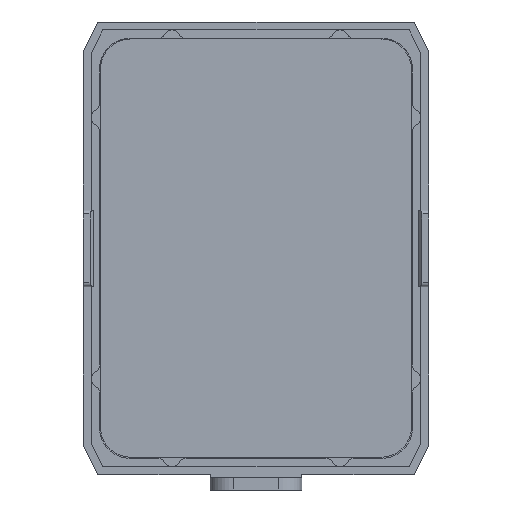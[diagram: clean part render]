
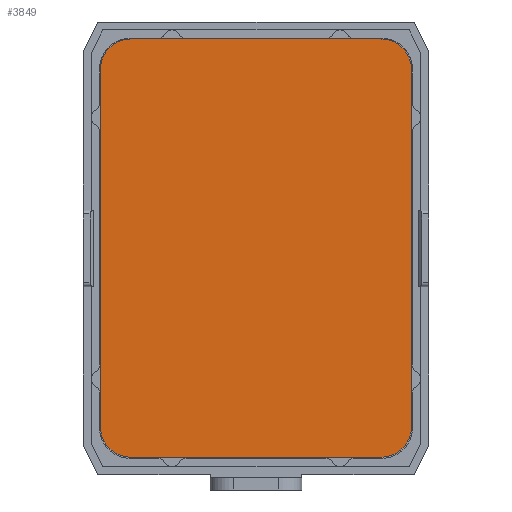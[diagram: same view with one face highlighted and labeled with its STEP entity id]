
A CAD part, front view. The second image highlights one B-rep face of the part: STEP entity #3849.
In plain terms, the highlighted planar face has unit normal (0, -1, 0).
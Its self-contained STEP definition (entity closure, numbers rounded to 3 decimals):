
#1413=CARTESIAN_POINT('',(-297.002,204.815,
-174.907));
#1414=DIRECTION('',(0.,1.,0.));
#1415=DIRECTION('',(-1.,0.,0.));
#1416=AXIS2_PLACEMENT_3D('',#1413,#1414,#1415);
#1418=DIRECTION('',(1.,0.,0.));
#1419=VECTOR('',#1418,32.7);
#1420=CARTESIAN_POINT('',(-297.002,204.815,
-170.907));
#1421=LINE('',#1420,#1419);
#1422=CARTESIAN_POINT('',(-264.302,204.815,
-174.907));
#1423=DIRECTION('',(0.,1.,0.));
#1424=DIRECTION('',(0.,0.,1.));
#1425=AXIS2_PLACEMENT_3D('',#1422,#1423,#1424);
#1427=DIRECTION('',(0.,0.,-1.));
#1428=VECTOR('',#1427,46.7);
#1429=CARTESIAN_POINT('',(-260.302,204.815,
-174.907));
#1430=LINE('',#1429,#1428);
#1431=CARTESIAN_POINT('',(-264.302,204.815,
-221.607));
#1432=DIRECTION('',(0.,1.,0.));
#1433=DIRECTION('',(1.,0.,0.));
#1434=AXIS2_PLACEMENT_3D('',#1431,#1432,#1433);
#1436=DIRECTION('',(-1.,0.,0.));
#1437=VECTOR('',#1436,32.7);
#1438=CARTESIAN_POINT('',(-264.302,204.815,
-225.607));
#1439=LINE('',#1438,#1437);
#1440=CARTESIAN_POINT('',(-297.002,204.815,
-221.607));
#1441=DIRECTION('',(0.,1.,0.));
#1442=DIRECTION('',(0.,0.,-1.));
#1443=AXIS2_PLACEMENT_3D('',#1440,#1441,#1442);
#1445=DIRECTION('',(0.,0.,1.));
#1446=VECTOR('',#1445,46.7);
#1447=CARTESIAN_POINT('',(-301.002,204.815,
-221.607));
#1448=LINE('',#1447,#1446);
#1828=CARTESIAN_POINT('',(-301.002,204.815,
-174.907));
#1829=CARTESIAN_POINT('',(-297.002,204.815,
-170.907));
#1830=VERTEX_POINT('',#1828);
#1831=VERTEX_POINT('',#1829);
#1832=CARTESIAN_POINT('',(-264.302,204.815,
-170.907));
#1833=VERTEX_POINT('',#1832);
#1834=CARTESIAN_POINT('',(-260.302,204.815,
-174.907));
#1835=VERTEX_POINT('',#1834);
#1836=CARTESIAN_POINT('',(-260.302,204.815,
-221.607));
#1837=VERTEX_POINT('',#1836);
#1838=CARTESIAN_POINT('',(-264.302,204.815,
-225.607));
#1839=VERTEX_POINT('',#1838);
#1840=CARTESIAN_POINT('',(-297.002,204.815,
-225.607));
#1841=VERTEX_POINT('',#1840);
#1842=CARTESIAN_POINT('',(-301.002,204.815,
-221.607));
#1843=VERTEX_POINT('',#1842);
#3834=CARTESIAN_POINT('',(-280.652,204.815,
-198.257));
#3835=DIRECTION('',(0.,-1.,0.));
#3836=DIRECTION('',(0.,0.,-1.));
#3837=AXIS2_PLACEMENT_3D('',#3834,#3835,#3836);
#3838=PLANE('',#3837);
#3839=ORIENTED_EDGE('',*,*,#3730,.T.);
#3840=ORIENTED_EDGE('',*,*,#3745,.T.);
#3841=ORIENTED_EDGE('',*,*,#3759,.T.);
#3842=ORIENTED_EDGE('',*,*,#3773,.T.);
#3843=ORIENTED_EDGE('',*,*,#3787,.T.);
#3844=ORIENTED_EDGE('',*,*,#3801,.T.);
#3845=ORIENTED_EDGE('',*,*,#3815,.T.);
#3846=ORIENTED_EDGE('',*,*,#3828,.T.);
#3847=EDGE_LOOP('',(#3839,#3840,#3841,#3842,#3843,#3844,#3845,#3846));
#3848=FACE_OUTER_BOUND('',#3847,.F.);
#3849=ADVANCED_FACE('',(#3848),#3838,.T.);
#1417=CIRCLE('',#1416,4.);
#1426=CIRCLE('',#1425,4.);
#1435=CIRCLE('',#1434,4.);
#1444=CIRCLE('',#1443,4.);
#3730=EDGE_CURVE('',#1830,#1831,#1417,.T.);
#3745=EDGE_CURVE('',#1831,#1833,#1421,.T.);
#3759=EDGE_CURVE('',#1833,#1835,#1426,.T.);
#3773=EDGE_CURVE('',#1835,#1837,#1430,.T.);
#3787=EDGE_CURVE('',#1837,#1839,#1435,.T.);
#3801=EDGE_CURVE('',#1839,#1841,#1439,.T.);
#3815=EDGE_CURVE('',#1841,#1843,#1444,.T.);
#3828=EDGE_CURVE('',#1843,#1830,#1448,.T.);
